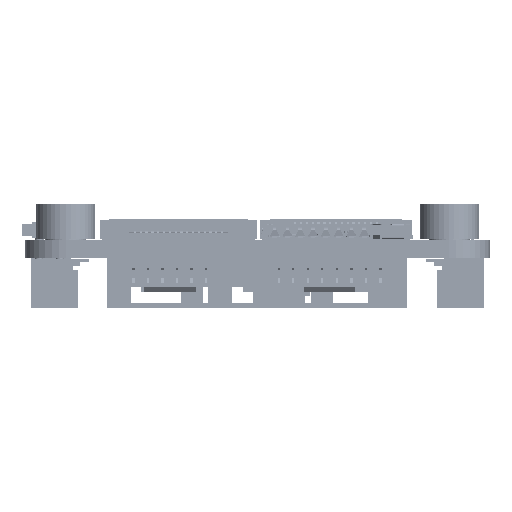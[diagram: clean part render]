
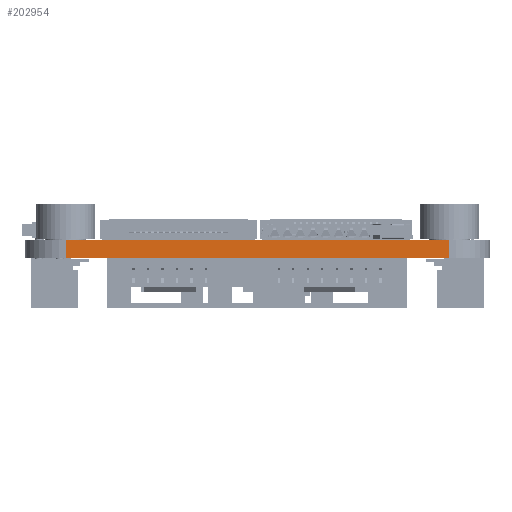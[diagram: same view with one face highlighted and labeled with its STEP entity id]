
A CAD part, front view. The second image highlights one B-rep face of the part: STEP entity #202954.
In plain terms, the highlighted planar face has unit normal (0, -1, 0).
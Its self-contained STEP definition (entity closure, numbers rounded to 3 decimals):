
#21572=FACE_OUTER_BOUND('',#31775,.T.);
#31775=EDGE_LOOP('',(#184704,#184705,#184706,#184707));
#56693=LINE('',#325043,#81617);
#56696=LINE('',#325133,#81620);
#56698=LINE('',#325214,#81622);
#56700=LINE('',#325218,#81624);
#81617=VECTOR('',#266890,1.);
#81620=VECTOR('',#266979,1.);
#81622=VECTOR('',#267063,1.);
#81624=VECTOR('',#267069,1.);
#100282=VERTEX_POINT('',#325040);
#100283=VERTEX_POINT('',#325042);
#100326=VERTEX_POINT('',#325130);
#100327=VERTEX_POINT('',#325132);
#128405=EDGE_CURVE('',#100282,#100283,#56693,.T.);
#128450=EDGE_CURVE('',#100327,#100326,#56696,.T.);
#128491=EDGE_CURVE('',#100282,#100327,#56698,.T.);
#128493=EDGE_CURVE('',#100283,#100326,#56700,.T.);
#184704=ORIENTED_EDGE('',*,*,#128491,.T.);
#184705=ORIENTED_EDGE('',*,*,#128450,.T.);
#184706=ORIENTED_EDGE('',*,*,#128493,.F.);
#184707=ORIENTED_EDGE('',*,*,#128405,.F.);
#193122=PLANE('',#216230);
#202954=ADVANCED_FACE('',(#21572),#193122,.T.);
#216230=AXIS2_PLACEMENT_3D('',#325217,#267067,#267068);
#266890=DIRECTION('',(-1.,0.,0.));
#266979=DIRECTION('',(-1.,0.,0.));
#267063=DIRECTION('',(0.,0.,1.));
#267067=DIRECTION('center_axis',(0.,-1.,0.));
#267068=DIRECTION('ref_axis',(-1.,0.,0.));
#267069=DIRECTION('',(0.,0.,1.));
#325040=CARTESIAN_POINT('',(16.5,-27.5,0.));
#325042=CARTESIAN_POINT('',(-16.5,-27.5,0.));
#325043=CARTESIAN_POINT('',(16.5,-27.5,0.));
#325130=CARTESIAN_POINT('',(-16.5,-27.5,1.51));
#325132=CARTESIAN_POINT('',(16.5,-27.5,1.51));
#325133=CARTESIAN_POINT('',(16.5,-27.5,1.51));
#325214=CARTESIAN_POINT('',(16.5,-27.5,0.));
#325217=CARTESIAN_POINT('Origin',(16.5,-27.5,0.));
#325218=CARTESIAN_POINT('',(-16.5,-27.5,0.));
